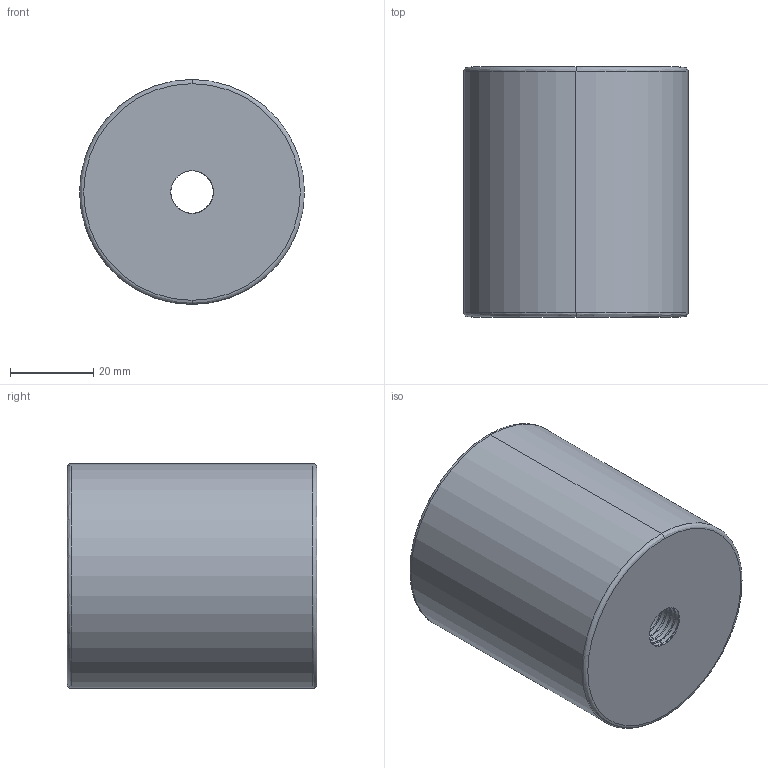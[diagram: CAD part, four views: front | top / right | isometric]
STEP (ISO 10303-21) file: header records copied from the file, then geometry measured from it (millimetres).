
FILE_DESCRIPTION( ( 'STEP AP203' ), '1' );
FILE_NAME( 'D:/Delta 3 D/D40/D40 - 54x60.step', '2002-12-31T23:17:31', ( ' ' ), ( ' ' ), 'XStep 1.0', ' ', ' ' );
FILE_SCHEMA( ( 'CONFIG_CONTROL_DESIGN' ) );
Length unit declared in the file: metre
Products named in the file (1): 1
Bounding box: 54 x 60 x 54 mm (x, y, z)
Volume: 68255.7 mm3; surface area: 21006.8 mm2
Topology: 1 solids, 1 shells, 60 faces, 159 edges, 102 vertices
Faces by surface type: revolution 45, bspline 15
Entity records: 4831 total; most frequent: CARTESIAN_POINT 3510, ORIENTED_EDGE 318, EDGE_CURVE 159, DIRECTION 148, B_SPLINE_CURVE_WITH_KNOTS 119, VERTEX_POINT 102, EDGE_LOOP 63, ADVANCED_FACE 60
